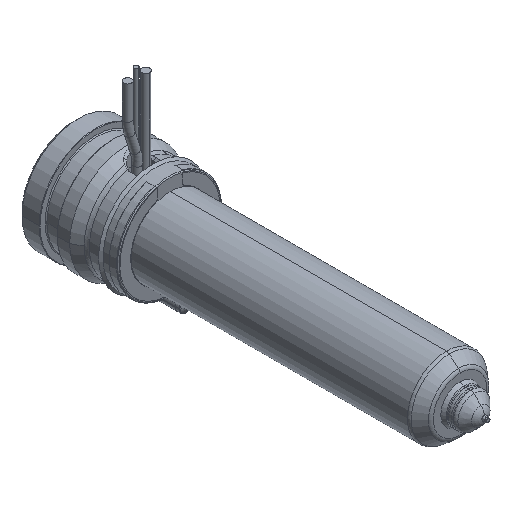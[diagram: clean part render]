
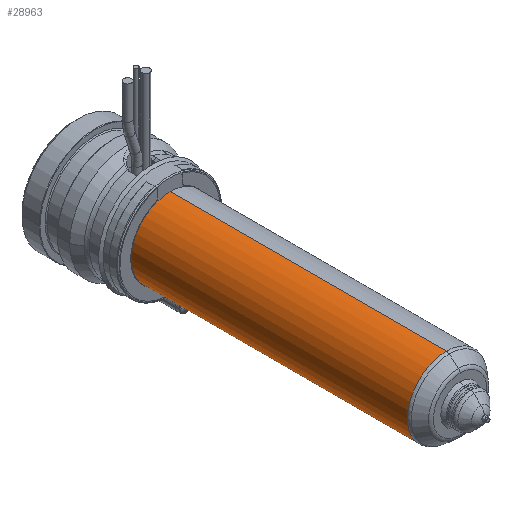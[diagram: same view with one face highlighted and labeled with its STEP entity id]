
A CAD part, isometric view. The second image highlights one B-rep face of the part: STEP entity #28963.
In plain terms, the highlighted cylindrical face has radius 9 mm (diameter 18 mm), a partial arc.
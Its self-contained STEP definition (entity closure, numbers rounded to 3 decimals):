
#28346=CARTESIAN_POINT('',(0.,-85.836,0.));
#28347=DIRECTION('',(0.,-1.,0.));
#28348=DIRECTION('',(0.,0.,1.));
#28349=AXIS2_PLACEMENT_3D('',#28346,#28347,#28348);
#28354=CARTESIAN_POINT('',(0.,-22.,0.));
#28355=DIRECTION('',(0.,-1.,0.));
#28356=DIRECTION('',(0.,0.,1.));
#28357=AXIS2_PLACEMENT_3D('',#28354,#28355,#28356);
#28362=DIRECTION('',(0.,-1.,0.));
#28363=VECTOR('',#28362,63.836);
#28364=CARTESIAN_POINT('',(0.,-22.,9.));
#28365=LINE('',#28364,#28363);
#28377=DIRECTION('',(0.,-1.,0.));
#28378=VECTOR('',#28377,63.836);
#28379=CARTESIAN_POINT('',(0.,-22.,-9.));
#28380=LINE('',#28379,#28378);
#28580=CARTESIAN_POINT('',(0.,-22.,9.));
#28581=CARTESIAN_POINT('',(0.,-85.836,9.));
#28582=VERTEX_POINT('',#28580);
#28583=VERTEX_POINT('',#28581);
#28606=CARTESIAN_POINT('',(0.,-22.,-9.));
#28607=CARTESIAN_POINT('',(0.,-85.836,-9.));
#28608=VERTEX_POINT('',#28606);
#28609=VERTEX_POINT('',#28607);
#28949=CARTESIAN_POINT('',(0.,-14.125,0.));
#28950=DIRECTION('',(0.,-1.,0.));
#28951=DIRECTION('',(0.,0.,1.));
#28952=AXIS2_PLACEMENT_3D('',#28949,#28950,#28951);
#28953=CYLINDRICAL_SURFACE('',#28952,9.);
#28955=ORIENTED_EDGE('',*,*,#28954,.T.);
#28956=ORIENTED_EDGE('',*,*,#28944,.T.);
#28958=ORIENTED_EDGE('',*,*,#28957,.F.);
#28960=ORIENTED_EDGE('',*,*,#28959,.F.);
#28961=EDGE_LOOP('',(#28955,#28956,#28958,#28960));
#28962=FACE_OUTER_BOUND('',#28961,.F.);
#28963=ADVANCED_FACE('',(#28962),#28953,.T.);
#28350=CIRCLE('',#28349,9.);
#28358=CIRCLE('',#28357,9.);
#28944=EDGE_CURVE('',#28583,#28609,#28350,.T.);
#28954=EDGE_CURVE('',#28582,#28583,#28365,.T.);
#28957=EDGE_CURVE('',#28608,#28609,#28380,.T.);
#28959=EDGE_CURVE('',#28582,#28608,#28358,.T.);
